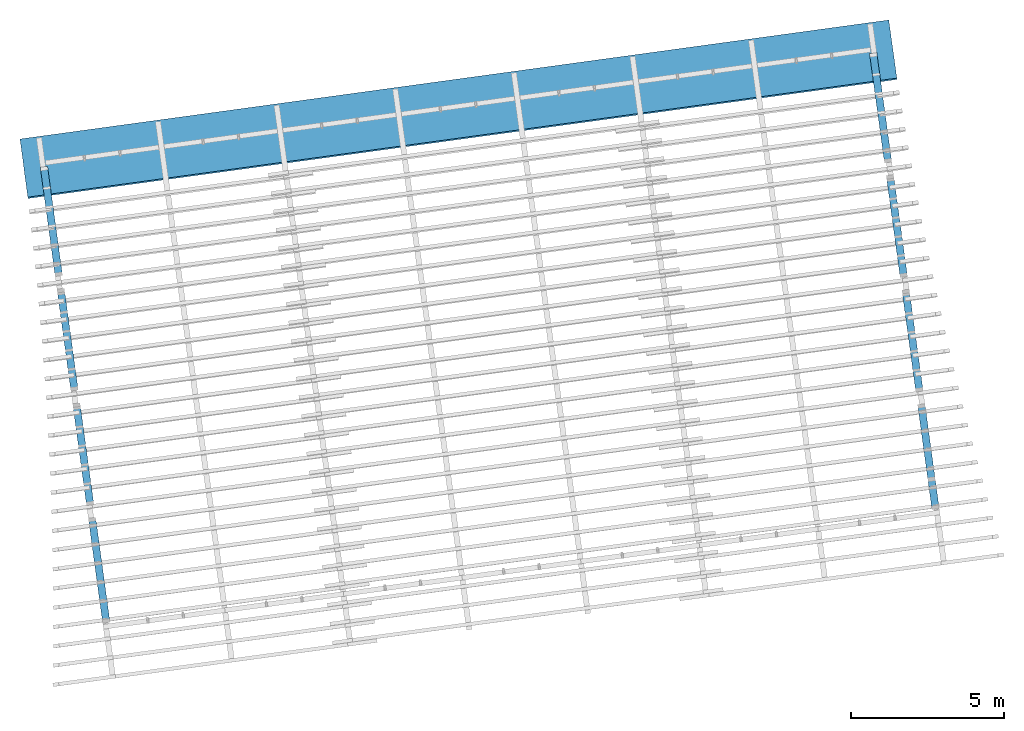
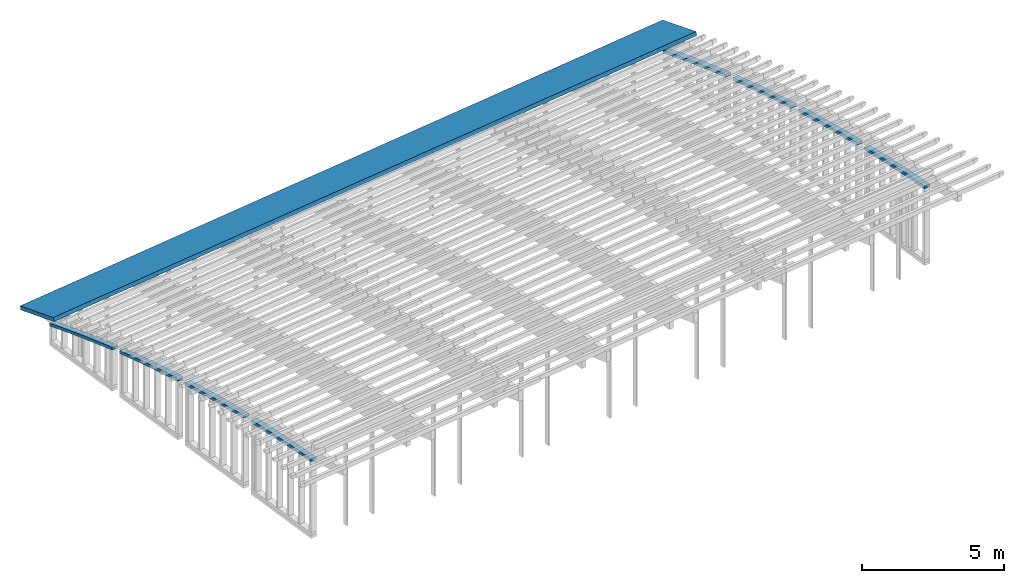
# One storey, part 3 of 18: 9 beams.
"""IFC2X3 building model written with IfcOpenShell, lengths in metres."""

from ifc_helpers import new_model, entity, si_unit, converted_unit, derived_unit, money_unit, direction, frame, origin_with_axes, place, context, subcontext, project, spatial, faceted_brep, material, type_object, element, save


model = new_model("IFC2X3")

# Units and contexts
model_context = context("Model", 3, precision=1e-05, world=origin_with_axes(), true_north=direction((0.0, 1.0)))
body_context = subcontext(model_context, "Body", "Model", "MODEL_VIEW")
ifc_project = project(units=[si_unit("LENGTHUNIT", "METRE"), si_unit("AREAUNIT", "SQUARE_METRE"), si_unit("VOLUMEUNIT", "CUBIC_METRE"), converted_unit("PLANEANGLEUNIT", "DEGREE", entity("IfcPlaneAngleMeasure", 0.0174532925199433), si_unit("PLANEANGLEUNIT", "RADIAN"), dimensions=[0, 0, 0, 0, 0, 0, 0]), money_unit("EUR"), converted_unit("TIMEUNIT", "Year", entity("IfcTimeMeasure", 31557600.0), si_unit("TIMEUNIT", "SECOND"), dimensions=[0, 0, 1, 0, 0, 0, 0]), si_unit("MASSUNIT", "GRAM", prefix="KILO"), si_unit("THERMODYNAMICTEMPERATUREUNIT", "DEGREE_CELSIUS"), si_unit("LUMINOUSINTENSITYUNIT", "LUMEN"), si_unit("ENERGYUNIT", "JOULE", prefix="MEGA"), derived_unit("THERMALCONDUCTANCEUNIT", [(si_unit("POWERUNIT", "WATT"), 1), (si_unit("LENGTHUNIT", "METRE"), -1), (si_unit("THERMODYNAMICTEMPERATUREUNIT", "KELVIN"), -1)]), derived_unit("SPECIFICHEATCAPACITYUNIT", [(si_unit("ENERGYUNIT", "JOULE"), 1), (si_unit("MASSUNIT", "GRAM", prefix="KILO"), -1), (si_unit("THERMODYNAMICTEMPERATUREUNIT", "KELVIN"), -1)]), derived_unit("MASSDENSITYUNIT", [(si_unit("MASSUNIT", "GRAM", prefix="KILO"), 1), (si_unit("VOLUMEUNIT", "CUBIC_METRE"), -1)])], contexts=[model_context])

# Site, building, storey
site_placement = place(None, origin_with_axes())
site = spatial("IfcSite", under=ifc_project, at=site_placement, Name="Gelände", CompositionType="ELEMENT")
building_placement = place(site_placement, origin_with_axes())
building = spatial("IfcBuilding", under=site, at=building_placement, Name="Gebäude", CompositionType="ELEMENT")
storey_placement = place(building_placement, frame((0.0, 0.0, 5.5), z_axis=(0.0, 0.0, 1.0), x_axis=(1.0, 0.0, 0.0)))
storey = spatial("IfcBuildingStorey", under=building, at=storey_placement, Name="OG", CompositionType="ELEMENT", Elevation=5.5)

# Beams
ifc_material_1 = material(Name="Holz, Bauholz")
beam_type_1 = type_object("IfcBeamType", Name="Holz, Bauholz 240 x 120", PredefinedType="NOTDEFINED")
beam_1_placement = place(storey_placement, frame((112.1847390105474, -136.2250171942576, 2.824312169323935), z_axis=(0.0, 0.0, 1.0), x_axis=(-0.9907484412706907, -0.1357111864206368, 0.0)))
element("IfcBeam", 1, at=beam_1_placement, inside=storey, type_object=beam_type_1, material=ifc_material_1, Name="Unterzug-021", context=body_context, shape_type="Brep", body=[
    faceted_brep([(0.1199999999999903, 2.667290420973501, 0.5358566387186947), (0.1199999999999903, 3.359999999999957, 0.6531036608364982), (-0.1200000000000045, 3.359999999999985, 0.653103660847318), (-0.1200000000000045, 2.667290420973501, 0.5358566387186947), (0.1199999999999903, 2.68821554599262, 0.417692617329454), (0.1200000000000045, 3.359999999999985, 0.5313978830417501), (-0.1200000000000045, 3.360000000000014, 0.5313978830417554), (-0.1200000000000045, 2.68821554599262, 0.417692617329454), (0.1200000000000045, 1.902710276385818, 0.3953782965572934), (-0.1199999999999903, 1.902710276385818, 0.3953782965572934), (0.1200000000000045, 1.925155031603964, 0.2774934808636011), (-0.1199999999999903, 1.925155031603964, 0.2774934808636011), (0.1199999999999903, 1.140002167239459, 0.2450676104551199), (-0.1200000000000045, 1.14000216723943, 0.2450676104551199), (0.1199999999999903, 1.16396283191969, 0.1274815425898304), (-0.1200000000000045, 1.163962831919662, 0.1274815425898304), (0.1200000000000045, 0.379292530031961, 0.0849494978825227), (-0.1200000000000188, 0.379292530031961, 0.0849494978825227), (0.1199999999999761, 0.4047651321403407, -0.03231832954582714), (-0.1200000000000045, 0.4047651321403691, -0.03231832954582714), (-0.1200000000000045, 0.0, 0.0), (0.1200000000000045, 0.0, 0.0), (0.1199999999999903, 0.02622645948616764, -0.1170989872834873), (-0.1200000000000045, 0.02622645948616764, -0.1170989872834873), (0.1200000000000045, 0.0, -0.1229728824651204), (-0.1199999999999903, 0.0, -0.1229728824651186)], [[[0, 1, 2, 3]], [[4, 5, 1, 0]], [[5, 6, 2, 1]], [[3, 2, 6, 7]], [[8, 0, 3, 9]], [[7, 6, 5, 4]], [[10, 4, 0, 8]], [[9, 3, 7, 11]], [[12, 8, 9, 13]], [[11, 7, 4, 10]], [[14, 10, 8, 12]], [[13, 9, 11, 15]], [[16, 12, 13, 17]], [[15, 11, 10, 14]], [[18, 14, 12, 16]], [[17, 13, 15, 19]], [[17, 20, 21, 16]], [[19, 15, 14, 18]], [[22, 18, 16, 21]], [[20, 17, 19, 23]], [[24, 21, 20, 25]], [[23, 19, 18, 22]], [[22, 21, 24]], [[23, 25, 20]], [[22, 24, 25, 23]]]),
])
beam_2_placement = place(storey_placement, frame((85.07389866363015, -139.9386180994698, 2.824312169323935), z_axis=(0.0, 0.0, 1.0), x_axis=(-0.9907484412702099, -0.1357111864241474, 0.0)))
element("IfcBeam", 2, at=beam_2_placement, inside=storey, type_object=beam_type_1, material=ifc_material_1, Name="Unterzug-021", context=body_context, shape_type="Brep", body=[
    faceted_brep([(0.1200000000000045, 2.667290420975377, 0.5358566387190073), (0.1200000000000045, 3.359999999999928, 0.6531036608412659), (-0.1200000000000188, 3.359999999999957, 0.6531036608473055), (-0.1199999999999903, 2.667290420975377, 0.5358566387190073), (0.1199999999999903, 2.688215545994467, 0.4176926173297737), (0.1199999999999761, 3.359999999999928, 0.5313978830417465), (-0.1200000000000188, 3.359999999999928, 0.5313978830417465), (-0.1199999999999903, 2.688215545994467, 0.4176926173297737), (0.1200000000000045, 1.902710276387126, 0.3953782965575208), (-0.1200000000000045, 1.902710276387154, 0.3953782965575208), (0.1200000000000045, 1.9251550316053, 0.2774934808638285), (-0.1199999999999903, 1.925155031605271, 0.2774934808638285), (0.1200000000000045, 1.140002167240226, 0.245067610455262), (-0.1200000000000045, 1.140002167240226, 0.245067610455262), (0.1199999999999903, 1.163962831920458, 0.1274815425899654), (-0.1200000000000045, 1.163962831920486, 0.1274815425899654), (0.1200000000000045, 0.3792925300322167, 0.08494949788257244), (-0.1200000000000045, 0.3792925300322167, 0.08494949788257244), (0.1200000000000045, 0.4047651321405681, -0.03231832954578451), (-0.1200000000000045, 0.4047651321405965, -0.03231832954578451), (-0.1200000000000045, 0.0, 0.0), (0.1200000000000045, 0.0, 0.0), (0.1200000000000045, 0.02622645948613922, -0.1170989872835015), (-0.1199999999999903, 0.02622645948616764, -0.1170989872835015), (0.1200000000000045, 0.0, -0.1229728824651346), (-0.1200000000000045, 0.0, -0.1229728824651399)], [[[0, 1, 2, 3]], [[4, 5, 1, 0]], [[5, 6, 2, 1]], [[3, 2, 6, 7]], [[8, 0, 3, 9]], [[7, 6, 5, 4]], [[10, 4, 0, 8]], [[9, 3, 7, 11]], [[12, 8, 9, 13]], [[11, 7, 4, 10]], [[14, 10, 8, 12]], [[13, 9, 11, 15]], [[16, 12, 13, 17]], [[15, 11, 10, 14]], [[18, 14, 12, 16]], [[17, 13, 15, 19]], [[17, 20, 21, 16]], [[19, 15, 14, 18]], [[22, 18, 16, 21]], [[20, 17, 19, 23]], [[24, 21, 20, 25]], [[23, 19, 18, 22]], [[22, 21, 24]], [[23, 25, 20]], [[22, 24, 25, 23]]]),
])
beam_3_placement = place(storey_placement, frame((111.6386371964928, -132.2382454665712, 1.778515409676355), z_axis=(0.0, 0.0, 1.0), x_axis=(-0.9907484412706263, -0.1357111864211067, 0.0)))
element("IfcBeam", 3, at=beam_3_placement, inside=storey, type_object=beam_type_1, material=ifc_material_1, Name="Unterzug-021", context=body_context, shape_type="Brep", body=[
    faceted_brep([(0.1199999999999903, 3.421133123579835, 0.9085113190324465), (0.1199999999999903, 3.604000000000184, 0.9498523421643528), (-0.1200000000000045, 3.604000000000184, 0.9498523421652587), (-0.1199999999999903, 3.421133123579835, 0.9085113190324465), (0.1200000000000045, 3.448553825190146, 0.7916837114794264), (0.1200000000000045, 3.604000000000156, 0.8268256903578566), (-0.1200000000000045, 3.604000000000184, 0.8268256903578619), (-0.1200000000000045, 3.448553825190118, 0.7916837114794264), (0.1199999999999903, 2.656395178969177, 0.7238696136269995), (-0.1199999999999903, 2.656395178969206, 0.7238696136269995), (0.1200000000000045, 2.68530255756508, 0.6074009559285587), (-0.1200000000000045, 2.685302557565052, 0.6074009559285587), (0.1200000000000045, 1.894072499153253, 0.529496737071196), (-0.1199999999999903, 1.894072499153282, 0.529496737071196), (0.1200000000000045, 1.924461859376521, 0.4134059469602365), (-0.1200000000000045, 1.924461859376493, 0.4134059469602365), (0.1200000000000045, 1.134288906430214, 0.3254242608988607), (-0.1199999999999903, 1.134288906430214, 0.3254242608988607), (0.1200000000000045, 1.166155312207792, 0.2097301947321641), (-0.1200000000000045, 1.166155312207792, 0.2097301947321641), (0.1199999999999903, 0.3771678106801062, 0.111685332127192), (-0.1200000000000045, 0.3771678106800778, 0.111685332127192), (0.1200000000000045, 0.4105060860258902, -0.003593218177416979), (-0.1200000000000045, 0.4105060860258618, -0.003593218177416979), (-0.1199999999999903, 0.0, 0.0), (0.1199999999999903, 0.0, 0.0), (0.1200000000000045, 0.03407150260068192, -0.1150614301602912), (-0.1200000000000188, 0.03407150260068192, -0.1150614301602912), (0.1199999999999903, 0.0, -0.125150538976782), (-0.1199999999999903, 0.0, -0.1251505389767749)], [[[0, 1, 2, 3]], [[4, 5, 1, 0]], [[5, 6, 2, 1]], [[3, 2, 6, 7]], [[8, 0, 3, 9]], [[7, 6, 5, 4]], [[10, 4, 0, 8]], [[9, 3, 7, 11]], [[12, 8, 9, 13]], [[11, 7, 4, 10]], [[14, 10, 8, 12]], [[13, 9, 11, 15]], [[16, 12, 13, 17]], [[15, 11, 10, 14]], [[18, 14, 12, 16]], [[17, 13, 15, 19]], [[20, 16, 17, 21]], [[19, 15, 14, 18]], [[22, 18, 16, 20]], [[21, 17, 19, 23]], [[21, 24, 25, 20]], [[23, 19, 18, 22]], [[26, 22, 20, 25]], [[24, 21, 23, 27]], [[28, 25, 24, 29]], [[27, 23, 22, 26]], [[26, 25, 28]], [[27, 29, 24]], [[26, 28, 29, 27]]]),
])
beam_4_placement = place(storey_placement, frame((112.6977272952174, -139.9700463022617, 3.545454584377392), z_axis=(0.0, 0.0, 1.0), x_axis=(-0.9907484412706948, -0.135711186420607, 0.0)))
element("IfcBeam", 4, at=beam_4_placement, inside=storey, type_object=beam_type_1, material=ifc_material_1, Name="Unterzug-021", context=body_context, shape_type="Brep", body=[
    faceted_brep([(0.1200000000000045, 2.747686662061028, 0.3726727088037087), (0.1199999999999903, 3.3599999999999, 0.4373810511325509), (-0.1200000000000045, 3.3599999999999, 0.4373810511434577), (-0.1200000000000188, 2.747686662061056, 0.3726727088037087), (0.1199999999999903, 2.761126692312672, 0.2534253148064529), (0.1199999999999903, 3.3599999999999, 0.3167133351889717), (-0.1200000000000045, 3.3599999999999, 0.3167133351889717), (-0.1200000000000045, 2.761126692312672, 0.2534253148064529), (0.1200000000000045, 1.960939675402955, 0.2789607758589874), (-0.1200000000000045, 1.960939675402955, 0.2789607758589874), (0.1200000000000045, 1.975886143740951, 0.1598928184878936), (-0.1200000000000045, 1.975886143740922, 0.1598928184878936), (0.1200000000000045, 1.175440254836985, 0.1753103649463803), (-0.1200000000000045, 1.175440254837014, 0.1753103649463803), (0.1199999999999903, 1.191890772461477, 0.05644087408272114), (-0.1200000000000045, 1.191890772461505, 0.05644087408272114), (0.1200000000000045, 0.3913139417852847, 0.06173804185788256), (-0.1200000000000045, 0.3913139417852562, 0.06173804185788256), (0.1199999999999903, 0.409265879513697, -0.05691398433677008), (-0.1200000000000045, 0.409265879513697, -0.05691398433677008), (-0.1200000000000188, 0.0, 0.0), (0.1199999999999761, 0.0, 0.0), (0.1199999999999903, 0.01870121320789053, -0.1185338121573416), (-0.1199999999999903, 0.01870121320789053, -0.1185338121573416), (0.1199999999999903, 0.0, -0.1214843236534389), (-0.1200000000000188, 0.0, -0.1214843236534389)], [[[0, 1, 2, 3]], [[4, 5, 1, 0]], [[5, 6, 2, 1]], [[3, 2, 6, 7]], [[8, 0, 3, 9]], [[7, 6, 5, 4]], [[10, 4, 0, 8]], [[9, 3, 7, 11]], [[12, 8, 9, 13]], [[11, 7, 4, 10]], [[14, 10, 8, 12]], [[13, 9, 11, 15]], [[16, 12, 13, 17]], [[15, 11, 10, 14]], [[18, 14, 12, 16]], [[17, 13, 15, 19]], [[17, 20, 21, 16]], [[19, 15, 14, 18]], [[22, 18, 16, 21]], [[20, 17, 19, 23]], [[24, 21, 20, 25]], [[23, 19, 18, 22]], [[22, 21, 24]], [[23, 25, 20]], [[22, 24, 25, 23]]]),
])
beam_5_placement = place(storey_placement, frame((84.52779684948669, -135.9518463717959, 1.778515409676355), z_axis=(0.0, 0.0, 1.0), x_axis=(-0.9907484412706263, -0.1357111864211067, 0.0)))
element("IfcBeam", 5, at=beam_5_placement, inside=storey, type_object=beam_type_1, material=ifc_material_1, Name="Unterzug-021", context=body_context, shape_type="Brep", body=[
    faceted_brep([(0.1200000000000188, 3.421133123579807, 0.9085113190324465), (0.1200000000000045, 3.604000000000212, 0.9498523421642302), (-0.1199999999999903, 3.604000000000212, 0.949852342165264), (-0.1199999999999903, 3.421133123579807, 0.9085113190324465), (0.1200000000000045, 3.448553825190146, 0.7916837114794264), (0.1200000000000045, 3.604000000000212, 0.826825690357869), (-0.1200000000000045, 3.604000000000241, 0.8268256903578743), (-0.1199999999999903, 3.448553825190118, 0.7916837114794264), (0.1200000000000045, 2.656395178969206, 0.7238696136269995), (-0.1199999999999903, 2.656395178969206, 0.7238696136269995), (0.1200000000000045, 2.68530255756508, 0.6074009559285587), (-0.1199999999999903, 2.68530255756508, 0.6074009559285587), (0.1200000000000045, 1.894072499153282, 0.529496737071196), (-0.1199999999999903, 1.894072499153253, 0.529496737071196), (0.1200000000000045, 1.924461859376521, 0.4134059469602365), (-0.1199999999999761, 1.924461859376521, 0.4134059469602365), (0.1200000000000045, 1.134288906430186, 0.3254242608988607), (-0.1199999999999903, 1.134288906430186, 0.3254242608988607), (0.1200000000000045, 1.166155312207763, 0.2097301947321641), (-0.1200000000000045, 1.166155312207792, 0.2097301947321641), (0.1200000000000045, 0.3771678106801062, 0.111685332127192), (-0.1199999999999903, 0.3771678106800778, 0.111685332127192), (0.1200000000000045, 0.4105060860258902, -0.003593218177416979), (-0.1199999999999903, 0.4105060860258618, -0.003593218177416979), (-0.1199999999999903, 0.0, 0.0), (0.1200000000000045, 0.0, 0.0), (0.1200000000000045, 0.03407150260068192, -0.1150614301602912), (-0.1199999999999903, 0.03407150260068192, -0.1150614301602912), (0.1200000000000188, 0.0, -0.1251505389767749), (-0.1199999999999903, 0.0, -0.1251505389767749)], [[[0, 1, 2, 3]], [[4, 5, 1, 0]], [[5, 6, 2, 1]], [[3, 2, 6, 7]], [[8, 0, 3, 9]], [[7, 6, 5, 4]], [[10, 4, 0, 8]], [[9, 3, 7, 11]], [[12, 8, 9, 13]], [[11, 7, 4, 10]], [[14, 10, 8, 12]], [[13, 9, 11, 15]], [[16, 12, 13, 17]], [[15, 11, 10, 14]], [[18, 14, 12, 16]], [[17, 13, 15, 19]], [[20, 16, 17, 21]], [[19, 15, 14, 18]], [[22, 18, 16, 20]], [[21, 17, 19, 23]], [[21, 24, 25, 20]], [[23, 19, 18, 22]], [[26, 22, 20, 25]], [[24, 21, 23, 27]], [[28, 25, 24, 29]], [[27, 23, 22, 26]], [[26, 25, 28]], [[27, 29, 24]], [[26, 28, 29, 27]]]),
])
beam_6_placement = place(storey_placement, frame((85.58688694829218, -143.6836472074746, 3.545454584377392), z_axis=(0.0, 0.0, 1.0), x_axis=(-0.990748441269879, -0.1357111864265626, 0.0)))
element("IfcBeam", 6, at=beam_6_placement, inside=storey, type_object=beam_type_1, material=ifc_material_1, Name="Unterzug-021", context=body_context, shape_type="Brep", body=[
    faceted_brep([(0.1199999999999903, 2.747686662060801, 0.3726727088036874), (0.1200000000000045, 3.359999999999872, 0.4373810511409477), (-0.1199999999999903, 3.359999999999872, 0.4373810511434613), (-0.1200000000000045, 2.747686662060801, 0.3726727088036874), (0.1200000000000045, 2.761126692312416, 0.2534253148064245), (0.1200000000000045, 3.359999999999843, 0.3167133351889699), (-0.1200000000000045, 3.359999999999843, 0.3167133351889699), (-0.1199999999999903, 2.761126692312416, 0.2534253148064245), (0.1200000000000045, 1.960939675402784, 0.2789607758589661), (-0.1200000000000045, 1.960939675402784, 0.2789607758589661), (0.1200000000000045, 1.975886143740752, 0.1598928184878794), (-0.1200000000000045, 1.975886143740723, 0.1598928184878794), (0.1199999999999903, 1.175440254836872, 0.1753103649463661), (-0.1200000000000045, 1.175440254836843, 0.1753103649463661), (0.1199999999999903, 1.191890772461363, 0.05644087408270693), (-0.1200000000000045, 1.191890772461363, 0.05644087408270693), (0.1200000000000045, 0.3913139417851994, 0.06173804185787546), (-0.1200000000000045, 0.3913139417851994, 0.06173804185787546), (0.1199999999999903, 0.4092658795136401, -0.05691398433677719), (-0.1199999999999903, 0.4092658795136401, -0.05691398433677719), (-0.1200000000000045, 0.0, 0.0), (0.1200000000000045, 0.0, 0.0), (0.1199999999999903, 0.01870121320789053, -0.1185338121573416), (-0.1200000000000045, 0.01870121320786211, -0.1185338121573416), (0.1200000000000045, 0.0, -0.1214843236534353), (-0.1200000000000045, 0.0, -0.1214843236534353)], [[[0, 1, 2, 3]], [[4, 5, 1, 0]], [[5, 6, 2, 1]], [[3, 2, 6, 7]], [[8, 0, 3, 9]], [[7, 6, 5, 4]], [[10, 4, 0, 8]], [[9, 3, 7, 11]], [[12, 8, 9, 13]], [[11, 7, 4, 10]], [[14, 10, 8, 12]], [[13, 9, 11, 15]], [[16, 12, 13, 17]], [[15, 11, 10, 14]], [[18, 14, 12, 16]], [[17, 13, 15, 19]], [[17, 20, 21, 16]], [[19, 15, 14, 18]], [[22, 18, 16, 21]], [[20, 17, 19, 23]], [[24, 21, 20, 25]], [[23, 19, 18, 22]], [[22, 21, 24]], [[23, 25, 20]], [[22, 24, 25, 23]]]),
])
ifc_material_2 = material(Name="Bauholz")
beam_type_2 = type_object("IfcBeamType", Name="Bauholz 240 x 120", PredefinedType="NOTDEFINED")
beam_7_placement = place(storey_placement, frame((86.09987523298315, -147.4286763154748, 4.023542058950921), z_axis=(0.0, 0.0, 1.0), x_axis=(-0.9907484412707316, -0.1357111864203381, 0.0)))
element("IfcBeam", 7, at=beam_7_placement, inside=storey, type_object=beam_type_2, material=ifc_material_2, Name="Unterzug-021", context=body_context, shape_type="Brep", body=[
    faceted_brep([(0.1200000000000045, 2.748684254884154, 0.2002236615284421), (0.1200000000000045, 3.459999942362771, 0.2304688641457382), (-0.1200000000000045, 3.459999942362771, 0.2304688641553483), (-0.1199999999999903, 2.748684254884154, 0.2002236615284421), (0.1200000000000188, 2.754682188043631, 0.08037122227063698), (0.1200000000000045, 3.459999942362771, 0.1103613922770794), (-0.1200000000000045, 3.459999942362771, 0.1103613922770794), (-0.1199999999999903, 2.754682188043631, 0.08037122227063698), (0.1199999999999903, 1.962447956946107, 0.1558627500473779), (-0.1200000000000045, 1.962447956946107, 0.1558627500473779), (0.1200000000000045, 1.969969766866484, 0.03609629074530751), (-0.1200000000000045, 1.969969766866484, 0.03609629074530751), (0.1200000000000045, 1.176839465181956, 0.1015055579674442), (-0.1199999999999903, 1.176839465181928, 0.1015055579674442), (0.1200000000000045, 1.185883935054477, -0.01815554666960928), (-0.1200000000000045, 1.185883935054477, -0.01815554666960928), (0.1199999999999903, 0.3919858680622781, 0.03716087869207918), (-0.1199999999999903, 0.3919858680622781, 0.03716087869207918), (0.1200000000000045, 0.4025515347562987, -0.08237551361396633), (-0.1199999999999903, 0.4025515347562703, -0.08237551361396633), (-0.1199999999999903, 0.0, 0.0), (0.1200000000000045, 0.0, 0.0), (0.1200000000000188, 0.01132541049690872, -0.1194643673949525), (-0.1199999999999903, 0.01132541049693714, -0.1194643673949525), (0.1200000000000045, 0.0, -0.1205380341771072), (-0.1199999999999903, 0.0, -0.1205380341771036)], [[[0, 1, 2, 3]], [[4, 5, 1, 0]], [[5, 6, 2, 1]], [[3, 2, 6, 7]], [[8, 0, 3, 9]], [[7, 6, 5, 4]], [[10, 4, 0, 8]], [[9, 3, 7, 11]], [[12, 8, 9, 13]], [[11, 7, 4, 10]], [[14, 10, 8, 12]], [[13, 9, 11, 15]], [[16, 12, 13, 17]], [[15, 11, 10, 14]], [[18, 14, 12, 16]], [[17, 13, 15, 19]], [[17, 20, 21, 16]], [[19, 15, 14, 18]], [[22, 18, 16, 21]], [[20, 17, 19, 23]], [[24, 21, 20, 25]], [[23, 19, 18, 22]], [[22, 21, 24]], [[23, 25, 20]], [[22, 24, 25, 23]]]),
])
beam_8_placement = place(storey_placement, frame((113.210715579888, -143.7150754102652, 4.023542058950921), z_axis=(0.0, 0.0, 1.0), x_axis=(-0.990748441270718, -0.1357111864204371, 0.0)))
element("IfcBeam", 8, at=beam_8_placement, inside=storey, type_object=beam_type_2, material=ifc_material_2, Name="Unterzug-021", context=body_context, shape_type="Brep", body=[
    faceted_brep([(0.1200000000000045, 2.748684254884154, 0.2002236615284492), (0.1199999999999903, 3.459999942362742, 0.2304688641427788), (-0.1199999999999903, 3.459999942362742, 0.2304688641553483), (-0.1199999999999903, 2.748684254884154, 0.2002236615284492), (0.1200000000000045, 2.754682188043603, 0.08037122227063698), (0.1200000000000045, 3.459999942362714, 0.1103613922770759), (-0.1199999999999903, 3.459999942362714, 0.1103613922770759), (-0.1200000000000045, 2.754682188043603, 0.08037122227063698), (0.1199999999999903, 1.962447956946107, 0.155862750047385), (-0.1199999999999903, 1.962447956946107, 0.155862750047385), (0.1200000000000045, 1.969969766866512, 0.03609629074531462), (-0.1199999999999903, 1.969969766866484, 0.03609629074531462), (0.1199999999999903, 1.176839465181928, 0.1015055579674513), (-0.1199999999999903, 1.176839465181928, 0.1015055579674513), (0.1199999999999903, 1.185883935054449, -0.01815554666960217), (-0.1200000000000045, 1.185883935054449, -0.01815554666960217), (0.1200000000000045, 0.3919858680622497, 0.03716087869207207), (-0.1199999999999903, 0.3919858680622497, 0.03716087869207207), (0.1200000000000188, 0.4025515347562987, -0.08237551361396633), (-0.1199999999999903, 0.4025515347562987, -0.08237551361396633), (-0.1199999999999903, 0.0, 0.0), (0.1200000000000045, 0.0, 0.0), (0.1200000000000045, 0.01132541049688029, -0.1194643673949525), (-0.1199999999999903, 0.01132541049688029, -0.1194643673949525), (0.1200000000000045, 0.0, -0.120538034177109), (-0.1200000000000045, 0.0, -0.120538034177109)], [[[0, 1, 2, 3]], [[4, 5, 1, 0]], [[5, 6, 2, 1]], [[3, 2, 6, 7]], [[8, 0, 3, 9]], [[7, 6, 5, 4]], [[10, 4, 0, 8]], [[9, 3, 7, 11]], [[12, 8, 9, 13]], [[11, 7, 4, 10]], [[14, 10, 8, 12]], [[13, 9, 11, 15]], [[16, 12, 13, 17]], [[15, 11, 10, 14]], [[18, 14, 12, 16]], [[17, 13, 15, 19]], [[17, 20, 21, 16]], [[19, 15, 14, 18]], [[22, 18, 16, 21]], [[20, 17, 19, 23]], [[24, 21, 20, 25]], [[23, 19, 18, 22]], [[22, 21, 24]], [[23, 25, 20]], [[22, 24, 25, 23]]]),
])
ifc_material_3 = material(Name="Holz, Brettschichtholz")
beam_type_3 = type_object("IfcBeamType", Name="Holz, Brettschichtholz 2000 x 160", PredefinedType="NOTDEFINED")
beam_9_placement = place(storey_placement, frame((83.87184302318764, -135.9946205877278, 2.474315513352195), z_axis=(0.0, 0.0, 1.0), x_axis=(0.1357111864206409, -0.9907484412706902, 0.0)))
element("IfcBeam", 9, at=beam_9_placement, inside=storey, type_object=beam_type_3, material=ifc_material_3, Name="Unterzug-031", context=body_context, shape_type="Brep", body=[
    faceted_brep([(-0.9594124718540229, 0.004841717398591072, -0.2820065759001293), (-0.2825879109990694, 0.004175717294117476, -0.08306297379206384), (0.1241923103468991, 0.0, 0.03650468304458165), (0.9594124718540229, 0.0, 0.2820065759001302), (0.9594122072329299, 4.492044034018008, 0.2820065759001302), (0.9594124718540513, 4.552044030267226, 0.2820065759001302), (0.9594124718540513, 28.67610308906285, 0.2820065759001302), (0.1194167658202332, 28.67610308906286, 0.03510097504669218), (-0.01073720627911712, 28.67460092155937, -0.003156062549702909), (-0.9594124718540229, 28.67245688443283, -0.2820065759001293), (-0.9142914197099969, 0.00479731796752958, -0.4355125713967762), (-0.2825879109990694, 0.004175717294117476, -0.2498317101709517), (0.1241923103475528, 0.0, -0.1302640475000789), (1.004533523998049, 0.0, 0.1285005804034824), (1.004533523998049, 0.5356907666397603, 0.1285005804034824), (0.9789049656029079, 0.5356908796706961, 0.2156914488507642), (0.9789410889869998, 0.655690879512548, 0.2155685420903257), (1.004533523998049, 0.6556907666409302, 0.1285005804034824), (1.004533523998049, 4.492043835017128, 0.1285005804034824), (1.002863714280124, 4.492043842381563, 0.1280133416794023), (1.002864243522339, 4.612043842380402, 0.1280133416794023), (0.959419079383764, 4.612044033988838, 0.2819840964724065), (0.9665939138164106, 28.13969078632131, 0.2575746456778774), (1.004533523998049, 28.13969061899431, 0.1285005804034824), (1.004533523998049, 28.67610308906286, 0.1285005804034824), (1.004533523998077, 4.612043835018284, 0.1285005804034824), (1.004533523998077, 28.01969061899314, 0.1285005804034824), (0.9665259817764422, 28.01969078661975, 0.2578057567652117), (0.1194167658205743, 28.67610308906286, -0.1316677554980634), (-0.01073720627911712, 28.67460092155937, -0.1699247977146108), (-0.9142914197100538, 28.67255885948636, -0.4355125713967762), (1.004261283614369, 28.13969062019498, 0.1284205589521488), (1.004260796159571, 28.01969062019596, 0.1284204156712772), (1.00302598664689, 4.612043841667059, 0.1280574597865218), (1.003032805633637, 4.492043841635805, 0.1280594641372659), (1.004185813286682, 0.6556907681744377, 0.1283983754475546), (1.004185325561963, 0.5356907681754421, 0.1283982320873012)], [[[0, 1, 2, 3, 4, 5, 6, 7, 8, 9]], [[1, 0, 10, 11]], [[12, 2, 1, 11]], [[2, 12, 13, 3]], [[3, 13, 14, 15, 16, 17, 18, 4]], [[19, 20, 21, 5, 4]], [[22, 23, 24, 6, 5, 21, 25, 26, 27]], [[24, 28, 7, 6]], [[29, 8, 7, 28]], [[30, 9, 8, 29]], [[10, 0, 9, 30]], [[11, 10, 30, 29, 28, 24, 23, 31, 32, 26, 25, 33, 20, 19, 34, 18, 17, 35, 36, 14, 13, 12]], [[15, 14, 36]], [[35, 16, 15, 36]], [[35, 17, 16]], [[19, 4, 18, 34]], [[20, 33, 25, 21]], [[23, 22, 31]], [[27, 26, 32]], [[27, 32, 31, 22]]]),
])

save(model, "model.ifc")
